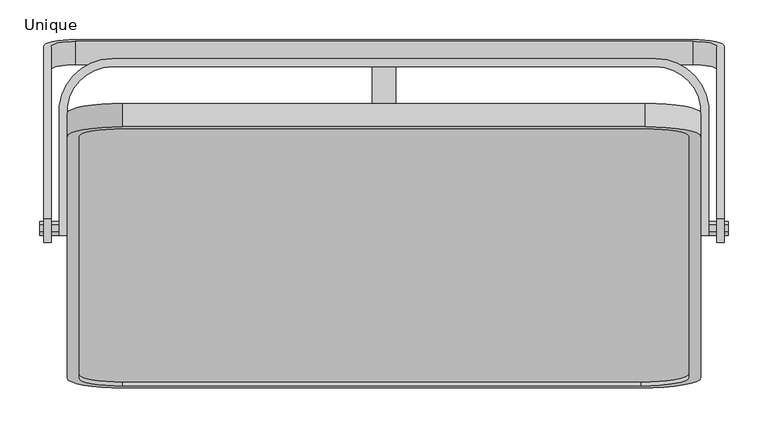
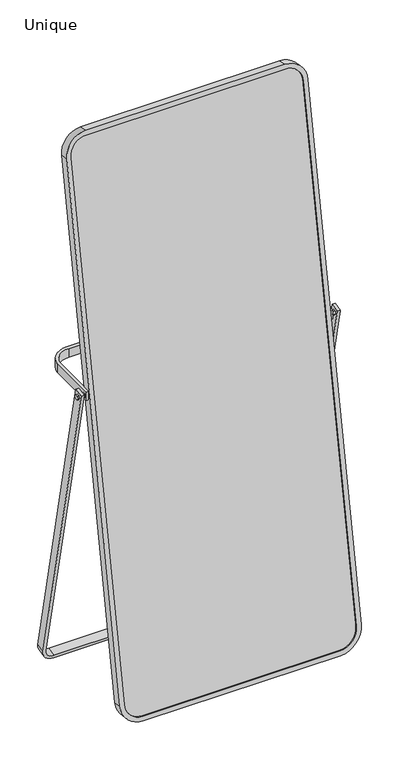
"""IFC4 building model written with IfcOpenShell, lengths in millimetres: furniture geometry, Blocks_Ikornnes Mirror_F01382EN : Unique."""

from ifc_helpers import new_model, si_unit, point, frame, frame_2d, origin, place, context, project, spatial, polyline, circle_curve, trimmed, segment, composite_curve, outline, extrude, source, transform, mapped, element, save


def unique_410485ed(model_context):
    return source(origin(), model_context, "Body", "SweptSolid", [
        extrude(outline(polyline([(-74.5268352, 1047.3818887), (-78.9251538, 1055.0), (-74.5268352, 1062.6181113), (-65.730198, 1062.6181113), (-61.3318794, 1055.0), (-65.730198, 1047.3818887), (-74.5268352, 1047.3818887)])), frame((-435.0, 0.0, 0.0), z_axis=(1.0, 0.0, 0.0), x_axis=(0.0, 1.0, 0.0)), (0.0, 0.0, 1.0), 25.0),
        extrude(outline(polyline([(-74.5268352, 1047.5664261), (-78.9251538, 1055.1845374), (-74.5268352, 1062.8026486), (-65.730198, 1062.8026486), (-61.3318794, 1055.1845374), (-65.730198, 1047.5664261), (-74.5268352, 1047.5664261)])), frame((410.0, 0.0, 0.0), z_axis=(1.0, 0.0, 0.0), x_axis=(0.0, 1.0, 0.0)), (0.0, 0.0, 1.0), 25.0),
        extrude(outline(composite_curve([segment(trimmed(circle_curve(frame_2d((-342.9536007, 77.1574157)), 67.5035242), [point((-410.0, 85.0))], [point((-342.9536007, 144.6609399))], False, "CARTESIAN"), True, "CONTINUOUS"), segment(polyline([(-342.9536007, 144.6609399), (0.0, 144.6609399), (342.9536007, 144.6609399)]), True, "CONTINUOUS"), segment(trimmed(circle_curve(frame_2d((342.9536007, 77.1574157)), 67.5035242), [point((342.9536007, 144.6609399))], [point((410.0, 85.0))], False, "CARTESIAN"), True, "CONTINUOUS"), segment(polyline([(410.0, 85.0), (410.0, -78.8258517), (400.0, -78.8258517), (400.0, 84.3936875)]), True, "CONTINUOUS"), segment(trimmed(circle_curve(frame_2d((342.9536007, 77.1574157)), 57.5035242), [point((400.0, 84.3936875))], [point((342.9536007, 134.6609399))], True, "CARTESIAN"), True, "CONTINUOUS"), segment(polyline([(342.9536007, 134.6609399), (0.0, 134.6609399), (-342.9536007, 134.6609399)]), True, "CONTINUOUS"), segment(trimmed(circle_curve(frame_2d((-342.9536007, 77.1574157)), 57.5035242), [point((-342.9536007, 134.6609399))], [point((-400.0, 84.3936875))], True, "CARTESIAN"), True, "CONTINUOUS"), segment(polyline([(-400.0, 84.3936875), (-400.0, -78.8258517), (-410.0, -78.8258517), (-410.0, 85.0)]), True, "CONTINUOUS")], self_intersect=False)), frame((0.0, 0.0, 1040.0), z_axis=(0.0, 0.0, 1.0), x_axis=(1.0, 0.0, 0.0)), (0.0, 0.0, 1.0), 30.0),
        extrude(outline(composite_curve([segment(polyline([(30.0, 30.0), (30.0, 1082.0065675), (40.0, 1082.0065675), (40.0, 30.0)]), True, "CONTINUOUS"), segment(trimmed(circle_curve(frame_2d((0.0, 30.0)), 40.0), [point((40.0, 30.0))], [point((0.0, -10.0))], False, "CARTESIAN"), True, "CONTINUOUS"), segment(polyline([(0.0, -10.0), (-780.0, -10.0)]), True, "CONTINUOUS"), segment(trimmed(circle_curve(frame_2d((-780.0, 30.0)), 40.0), [point((-780.0, -10.0))], [point((-820.0, 30.0))], False, "CARTESIAN"), True, "CONTINUOUS"), segment(polyline([(-820.0, 30.0), (-820.0, 1082.0065675), (-810.0, 1082.0065675), (-810.0, 30.0)]), True, "CONTINUOUS"), segment(trimmed(circle_curve(frame_2d((-780.0, 30.0)), 30.0), [point((-810.0, 30.0))], [point((-780.0, 0.0))], True, "CARTESIAN"), True, "CONTINUOUS"), segment(polyline([(-780.0, 0.0), (0.0, 0.0)]), True, "CONTINUOUS"), segment(trimmed(circle_curve(frame_2d((0.0, 30.0)), 30.0), [point((0.0, 0.0))], [point((30.0, 30.0))], True, "CARTESIAN"), True, "CONTINUOUS")], self_intersect=False)), frame((-390.0, 137.4023068, 9.781476), z_axis=(0.0, 0.9781476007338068, 0.20791169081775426), x_axis=(-1.0, 0.0, 0.0)), (0.0, 0.0, 1.0), 30.0),
        extrude(outline(composite_curve([segment(polyline([(0.0, 0.0), (660.0, 0.0)]), True, "CONTINUOUS"), segment(trimmed(circle_curve(frame_2d((660.0, -55.0)), 55.0), [point((660.0, 0.0))], [point((715.0, -55.0))], False, "CARTESIAN"), True, "CONTINUOUS"), segment(polyline([(715.0, -55.0), (715.0, -1810.0)]), True, "CONTINUOUS"), segment(trimmed(circle_curve(frame_2d((655.0, -1810.0)), 60.0), [point((715.0, -1810.0))], [point((655.0, -1870.0))], False, "CARTESIAN"), True, "CONTINUOUS"), segment(polyline([(655.0, -1870.0), (0.0, -1870.0)]), True, "CONTINUOUS"), segment(trimmed(circle_curve(frame_2d((0.0, -1815.0)), 55.0), [point((0.0, -1870.0))], [point((-55.0, -1815.0))], False, "CARTESIAN"), True, "CONTINUOUS"), segment(polyline([(-55.0, -1815.0), (-55.0, -55.0)]), True, "CONTINUOUS"), segment(trimmed(circle_curve(frame_2d((0.0, -55.0)), 55.0), [point((-55.0, -55.0))], [point((0.0, 0.0))], False, "CARTESIAN"), True, "CONTINUOUS")], self_intersect=False)), frame((-330.0, 65.7158341, 1860.3376598), z_axis=(0.0, -0.9848077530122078, 0.17364817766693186), x_axis=(1.0, 0.0, 0.0)), (0.0, 0.0, 1.0), 5.0),
        extrude(outline(composite_curve([segment(trimmed(circle_curve(frame_2d((0.0, -70.0)), 70.0), [point((70.0, -70.0))], [point((0.0, -140.0))], False, "CARTESIAN"), True, "CONTINUOUS"), segment(polyline([(0.0, -140.0), (-660.0, -140.0)]), True, "CONTINUOUS"), segment(trimmed(circle_curve(frame_2d((-660.0, -70.0)), 70.0), [point((-660.0, -140.0))], [point((-730.0, -70.0))], False, "CARTESIAN"), True, "CONTINUOUS"), segment(polyline([(-730.0, -70.0), (-730.0, 1685.0000001)]), True, "CONTINUOUS"), segment(trimmed(circle_curve(frame_2d((-655.0, 1685.0000001)), 75.0), [point((-730.0, 1685.0000001))], [point((-655.0, 1760.0))], False, "CARTESIAN"), True, "CONTINUOUS"), segment(polyline([(-655.0, 1760.0), (0.0, 1760.0)]), True, "CONTINUOUS"), segment(trimmed(circle_curve(frame_2d((0.0, 1690.0)), 70.0), [point((0.0, 1760.0))], [point((70.0, 1690.0))], False, "CARTESIAN"), True, "CONTINUOUS"), segment(polyline([(70.0, 1690.0), (70.0, -70.0)]), True, "CONTINUOUS")], self_intersect=False), holes=[composite_curve([segment(trimmed(circle_curve(frame_2d((0.0, 1690.0)), 55.0), [point((55.0, 1690.0))], [point((0.0, 1745.0))], True, "CARTESIAN"), True, "CONTINUOUS"), segment(polyline([(0.0, 1745.0), (-655.0, 1745.0)]), True, "CONTINUOUS"), segment(trimmed(circle_curve(frame_2d((-655.0, 1685.0000001)), 60.0), [point((-655.0, 1745.0))], [point((-715.0, 1685.0000001))], True, "CARTESIAN"), True, "CONTINUOUS"), segment(polyline([(-715.0, 1685.0000001), (-715.0, -70.0)]), True, "CONTINUOUS"), segment(trimmed(circle_curve(frame_2d((-660.0, -70.0)), 55.0), [point((-715.0, -70.0))], [point((-660.0, -125.0))], True, "CARTESIAN"), True, "CONTINUOUS"), segment(polyline([(-660.0, -125.0), (0.0, -125.0)]), True, "CONTINUOUS"), segment(trimmed(circle_curve(frame_2d((0.0, -70.0)), 55.0), [point((0.0, -125.0))], [point((55.0, -70.0))], True, "CARTESIAN"), True, "CONTINUOUS"), segment(polyline([(55.0, -70.0), (55.0, 1690.0)]), True, "CONTINUOUS")], self_intersect=False)]), frame((-330.0, 63.705967, 1733.7637272), z_axis=(0.0, -0.9848077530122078, 0.17364817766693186), x_axis=(-1.0, 0.0, 0.0)), (0.0, 0.0, 1.0), 30.0),
        extrude(outline(polyline([(-242.0033563, 0.0), (-240.2786182, 9.781476), (137.4023068, 9.781476), (139.4814237, 0.0), (-242.0033563, 0.0)])), frame((-15.0, 0.0, 0.0), z_axis=(1.0, 0.0, 0.0), x_axis=(0.0, 1.0, 0.0)), (0.0, 0.0, 1.0), 30.0),
    ])


if __name__ == "__main__":
    model = new_model("IFC4")
    model_context = context("Model", 3, world=origin())
    ifc_project = project(units=[si_unit("LENGTHUNIT", "METRE", prefix="MILLI")], contexts=[model_context])
    site = spatial("IfcSite", under=ifc_project)
    building = spatial("IfcBuilding", under=site)
    placement = place(None, origin())
    unique_shape = unique_410485ed(model_context)
    element("IfcFurniture", 1, ObjectType="Blocks_Ikornnes Mirror_F01382EN : Unique", at=placement, inside=building, context=model_context, shape_type="MappedRepresentation", body=[
        mapped(unique_shape, transform((0.0, 0.0, 0.0), x_axis=(1.0, 0.0, 0.0), y_axis=(0.0, 1.0, 0.0), z_axis=(0.0, 0.0, 1.0))),
    ])
    save(model, "model.ifc")
